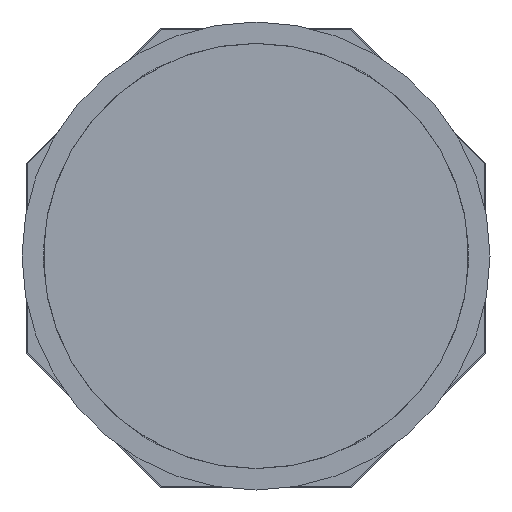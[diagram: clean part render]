
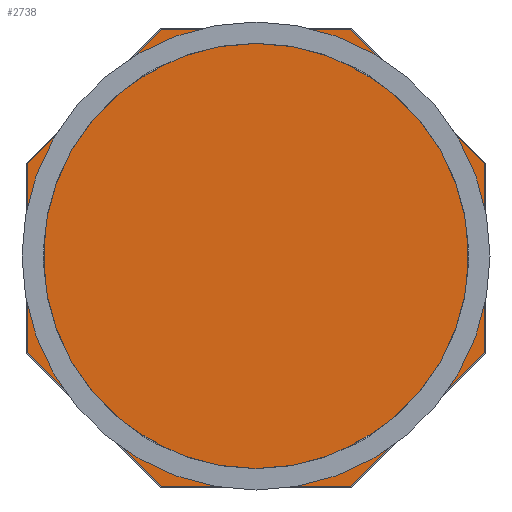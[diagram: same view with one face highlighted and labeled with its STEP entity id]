
A CAD part, front view. The second image highlights one B-rep face of the part: STEP entity #2738.
In plain terms, the highlighted planar face has unit normal (0, -1, 0).
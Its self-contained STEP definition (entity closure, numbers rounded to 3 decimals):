
#2192=DIRECTION('',(-0.707,0.,0.707));
#2193=VECTOR('',#2192,353.738);
#2194=CARTESIAN_POINT('',(-176.869,52.75,-431.));
#2195=LINE('',#2194,#2193);
#2200=DIRECTION('',(0.,0.,1.));
#2201=VECTOR('',#2200,353.738);
#2202=CARTESIAN_POINT('',(-427.,52.75,-180.869));
#2203=LINE('',#2202,#2201);
#2208=DIRECTION('',(0.707,0.,0.707));
#2209=VECTOR('',#2208,353.738);
#2210=CARTESIAN_POINT('',(-427.,52.75,172.869));
#2211=LINE('',#2210,#2209);
#2216=DIRECTION('',(1.,0.,0.));
#2217=VECTOR('',#2216,353.738);
#2218=CARTESIAN_POINT('',(-176.869,52.75,423.));
#2219=LINE('',#2218,#2217);
#2224=DIRECTION('',(0.707,0.,-0.707));
#2225=VECTOR('',#2224,353.738);
#2226=CARTESIAN_POINT('',(176.869,52.75,423.));
#2227=LINE('',#2226,#2225);
#2232=DIRECTION('',(0.,0.,-1.));
#2233=VECTOR('',#2232,353.738);
#2234=CARTESIAN_POINT('',(427.,52.75,172.869));
#2235=LINE('',#2234,#2233);
#2240=DIRECTION('',(-0.707,0.,-0.707));
#2241=VECTOR('',#2240,353.738);
#2242=CARTESIAN_POINT('',(427.,52.75,-180.869));
#2243=LINE('',#2242,#2241);
#2248=DIRECTION('',(-1.,0.,0.));
#2249=VECTOR('',#2248,353.738);
#2250=CARTESIAN_POINT('',(176.869,52.75,-431.));
#2251=LINE('',#2250,#2249);
#2403=CARTESIAN_POINT('',(-176.869,52.75,-431.));
#2404=CARTESIAN_POINT('',(-427.,52.75,-180.869));
#2405=VERTEX_POINT('',#2403);
#2406=VERTEX_POINT('',#2404);
#2407=CARTESIAN_POINT('',(176.869,52.75,-431.));
#2408=VERTEX_POINT('',#2407);
#2409=CARTESIAN_POINT('',(427.,52.75,-180.869));
#2410=VERTEX_POINT('',#2409);
#2411=CARTESIAN_POINT('',(427.,52.75,172.869));
#2412=VERTEX_POINT('',#2411);
#2413=CARTESIAN_POINT('',(176.869,52.75,423.));
#2414=VERTEX_POINT('',#2413);
#2415=CARTESIAN_POINT('',(-176.869,52.75,423.));
#2416=VERTEX_POINT('',#2415);
#2417=CARTESIAN_POINT('',(-427.,52.75,172.869));
#2418=VERTEX_POINT('',#2417);
#2716=CARTESIAN_POINT('',(0.,52.75,0.));
#2717=DIRECTION('',(0.,1.,0.));
#2718=DIRECTION('',(1.,0.,0.));
#2719=AXIS2_PLACEMENT_3D('',#2716,#2717,#2718);
#2720=PLANE('',#2719);
#2721=ORIENTED_EDGE('',*,*,#2706,.T.);
#2723=ORIENTED_EDGE('',*,*,#2722,.T.);
#2725=ORIENTED_EDGE('',*,*,#2724,.T.);
#2727=ORIENTED_EDGE('',*,*,#2726,.T.);
#2729=ORIENTED_EDGE('',*,*,#2728,.T.);
#2731=ORIENTED_EDGE('',*,*,#2730,.T.);
#2733=ORIENTED_EDGE('',*,*,#2732,.T.);
#2735=ORIENTED_EDGE('',*,*,#2734,.T.);
#2736=EDGE_LOOP('',(#2721,#2723,#2725,#2727,#2729,#2731,#2733,#2735));
#2737=FACE_OUTER_BOUND('',#2736,.F.);
#2706=EDGE_CURVE('',#2405,#2406,#2195,.T.);
#2722=EDGE_CURVE('',#2406,#2418,#2203,.T.);
#2724=EDGE_CURVE('',#2418,#2416,#2211,.T.);
#2726=EDGE_CURVE('',#2416,#2414,#2219,.T.);
#2728=EDGE_CURVE('',#2414,#2412,#2227,.T.);
#2730=EDGE_CURVE('',#2412,#2410,#2235,.T.);
#2732=EDGE_CURVE('',#2410,#2408,#2243,.T.);
#2734=EDGE_CURVE('',#2408,#2405,#2251,.T.);
#2738=ADVANCED_FACE('',(#2737),#2720,.F.);
